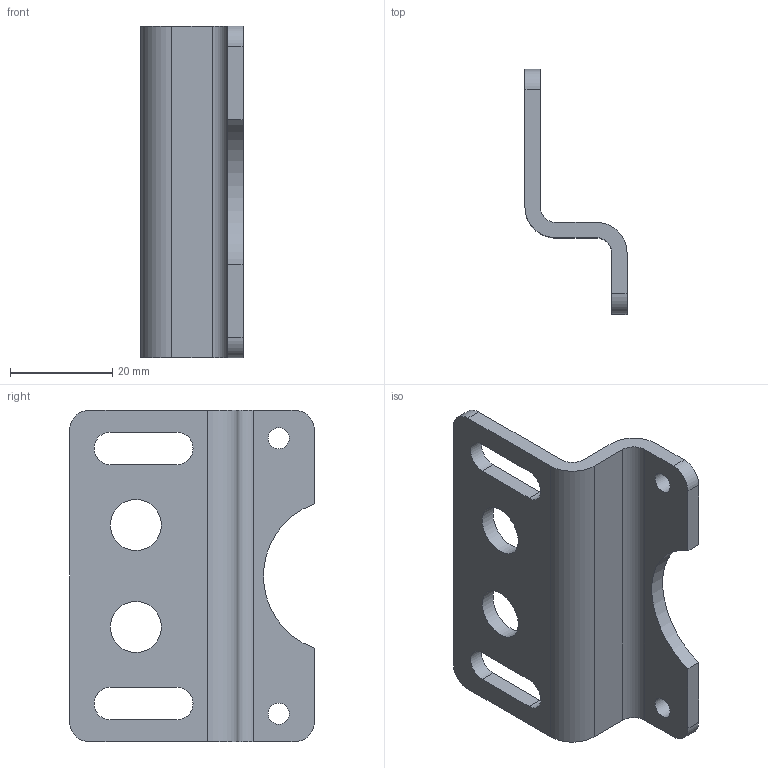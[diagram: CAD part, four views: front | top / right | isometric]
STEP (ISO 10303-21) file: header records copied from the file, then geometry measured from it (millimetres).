
FILE_DESCRIPTION((''),'2;1');
FILE_NAME('K:\ZEICHNG\webgrafik.intern\Air-Techniques Befestigungen und Behälter\step\ZW.33-1.stp','2013-06-20T09:51:05',('RJanz'),(''),'Autodesk Inventor 2013','Autodesk Inventor 2013','');
FILE_SCHEMA(('CONFIG_CONTROL_DESIGN'));
Length unit declared in the file: millimetre
Products named in the file (1): 10000733
Bounding box: 20 x 48 x 65 mm (x, y, z)
Volume: 10017.8 mm3; surface area: 7983.7 mm2
Topology: 1 solids, 1 shells, 32 faces, 92 edges, 62 vertices
Faces by surface type: cylinder 17, plane 15
Full cylindrical faces by diameter (mm): 4.134 x2, 10 x2
Entity records: 1078 total; most frequent: DIRECTION 186, CARTESIAN_POINT 179, ORIENTED_EDGE 172, EDGE_CURVE 86, AXIS2_PLACEMENT_3D 67, VERTEX_POINT 60, VECTOR 52, LINE 52
